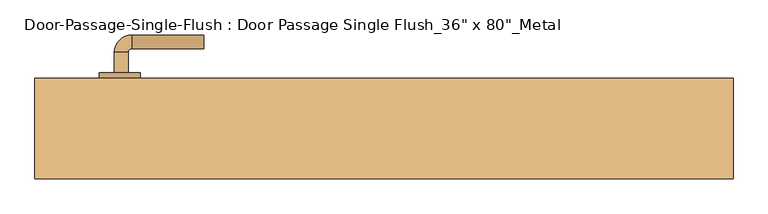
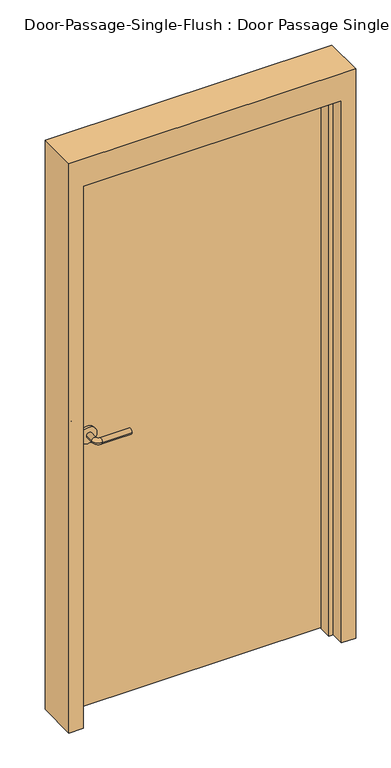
"""IFC4 building model written with IfcOpenShell, lengths in millimetres: door geometry."""

from ifc_helpers import new_model, si_unit, point, frame, frame_2d, origin, origin_with_axes, place, context, project, spatial, polyline, circle_curve, ellipse_curve, trimmed, segment, composite_curve, outline, extrude, faceted_brep, source, transform, mapped, element, save
from ifc_brep_helpers import plane_surface, cylinder_surface, revolved_surface, advanced_brep


def door_7c3f7257(model_context):
    return source(origin(), model_context, "Body", "SolidModel", [
        advanced_brep(
        [(-392.190625, 106.3, 1016.0), (-372.190625, 106.3, 1016.0), (-372.190625, 76.3, 1016.0), (-392.190625, 76.3, 1016.0), (-367.190625, 71.3, 1016.0), (-367.190625, 51.3, 1016.0), (-262.190625, 51.3, 1016.0), (-262.190625, 71.3, 1016.0)],
        [
            (0, 1, circle_curve(frame((-382.190625, 106.3, 1016.0), z_axis=(0.0, 1.0, 0.0), x_axis=(1.0, 0.0, 0.0)), 10.0)),
            (1, 0, circle_curve(frame((-382.190625, 106.3, 1016.0), z_axis=(0.0, 1.0, 0.0), x_axis=(1.0, 0.0, 0.0)), 10.0)),
            (1, 2),
            (2, 3, circle_curve(frame((-382.190625, 76.3, 1016.0), z_axis=(0.0, 1.0, 0.0), x_axis=(1.0, 0.0, 0.0)), 10.0)),
            (3, 0),
            (3, 2, circle_curve(frame((-382.190625, 76.3, 1016.0), z_axis=(0.0, 1.0, 0.0), x_axis=(1.0, 0.0, 0.0)), 10.0)),
            (4, 5, circle_curve(frame((-367.190625, 61.3, 1016.0), z_axis=(-1.0, 0.0, 0.0), x_axis=(0.0, 1.0, 0.0)), 10.0)),
            (5, 3, circle_curve(frame((-367.190625, 76.3, 1016.0), z_axis=(0.0, 0.0, -1.0), x_axis=(-1.0, 0.0, 0.0)), 25.0)),
            (2, 4, circle_curve(frame((-367.190625, 76.3, 1016.0), z_axis=(0.0, 0.0, 1.0), x_axis=(-1.0, 0.0, 0.0)), 5.0)),
            (5, 4, circle_curve(frame((-367.190625, 61.3, 1016.0), z_axis=(-1.0, 0.0, 0.0), x_axis=(0.0, 1.0, 0.0)), 10.0)),
            (6, 7, circle_curve(frame((-262.190625, 61.3, 1016.0), z_axis=(1.0, 0.0, 0.0), x_axis=(0.0, 1.0, 0.0)), 10.0)),
            (7, 6, circle_curve(frame((-262.190625, 61.3, 1016.0), z_axis=(1.0, 0.0, 0.0), x_axis=(0.0, 1.0, 0.0)), 10.0)),
            (4, 7),
            (6, 5),
        ],
        [
            plane_surface(frame((-382.190625, 106.3, 1016.0), z_axis=(0.0, 1.0, 0.0), x_axis=(0.0, 0.0, 1.0))),
            cylinder_surface(frame((-382.190625, 106.3, 1016.0), z_axis=(0.0, 1.0, 0.0), x_axis=(1.0, 0.0, 0.0)), 10.0),
            revolved_surface(trimmed(ellipse_curve(frame((-382.190625, 76.3, 1016.0), z_axis=(0.0, -1.0, 0.0), x_axis=(1.0, 0.0, 0.0)), 10.0, 10.0), [point((-392.190625, 76.3, 1016.0))], [point((-372.190625, 76.3, 1016.0))], True, "CARTESIAN"), (-367.190625, 76.3, 1016.0), (0.0, 0.0, -1.0)),
            revolved_surface(trimmed(ellipse_curve(frame((-382.190625, 76.3, 1016.0), z_axis=(0.0, -1.0, 0.0), x_axis=(1.0, 0.0, 0.0)), 10.0, 10.0), [point((-372.190625, 76.3, 1016.0))], [point((-392.190625, 76.3, 1016.0))], True, "CARTESIAN"), (-367.190625, 76.3, 1016.0), (0.0, 0.0, -1.0)),
            plane_surface(frame((-262.190625, 61.3, 1016.0), z_axis=(1.0, 0.0, 0.0), x_axis=(0.0, 0.0, 1.0))),
            cylinder_surface(frame((-367.190625, 61.3, 1016.0), z_axis=(-1.0, 0.0, 0.0), x_axis=(0.0, 1.0, 0.0)), 10.0),
        ],
        [
            (0, [[1, 2]]),
            (1, [[3, 4, 5, -2]]),
            (1, [[-5, 6, -3, -1]]),
            (2, [[7, 8, -4, 9]]),
            (3, [[10, -9, -6, -8]]),
            (4, [[11, 12]]),
            (5, [[13, -11, 14, -7]]),
            (5, [[-14, -12, -13, -10]]),
        ],
    ),
        extrude(outline(composite_curve([segment(trimmed(circle_curve(frame_2d((1016.0, -384.690625)), 30.0), [point((1016.0, -414.690625))], [point((1016.0, -354.690625))], False, "CARTESIAN"), True, "CONTINUOUS"), segment(trimmed(circle_curve(frame_2d((1016.0, -384.690625)), 30.0), [point((1016.0, -354.690625))], [point((1016.0, -414.690625))], False, "CARTESIAN"), True, "CONTINUOUS")], self_intersect=False)), frame((0.0, 106.3, 0.0), z_axis=(0.0, 1.0, 0.0), x_axis=(0.0, 0.0, 1.0)), (0.0, 0.0, 1.0), 8.0),
        advanced_brep(
        [(-392.190625, 166.75, 1016.0), (-372.190625, 166.75, 1016.0), (-392.190625, 196.75, 1016.0), (-372.190625, 196.75, 1016.0), (-367.190625, 201.75, 1016.0), (-367.190625, 221.75, 1016.0), (-262.190625, 221.75, 1016.0), (-262.190625, 201.75, 1016.0)],
        [
            (0, 1, circle_curve(frame((-382.190625, 166.75, 1016.0), z_axis=(0.0, -1.0, 0.0), x_axis=(1.0, 0.0, 0.0)), 10.0)),
            (1, 0, circle_curve(frame((-382.190625, 166.75, 1016.0), z_axis=(0.0, -1.0, 0.0), x_axis=(1.0, 0.0, 0.0)), 10.0)),
            (0, 2),
            (2, 3, circle_curve(frame((-382.190625, 196.75, 1016.0), z_axis=(0.0, -1.0, 0.0), x_axis=(1.0, 0.0, 0.0)), 10.0)),
            (3, 1),
            (3, 2, circle_curve(frame((-382.190625, 196.75, 1016.0), z_axis=(0.0, -1.0, 0.0), x_axis=(1.0, 0.0, 0.0)), 10.0)),
            (4, 3, circle_curve(frame((-367.190625, 196.75, 1016.0), z_axis=(0.0, 0.0, 1.0), x_axis=(-1.0, 0.0, 0.0)), 5.0)),
            (2, 5, circle_curve(frame((-367.190625, 196.75, 1016.0), z_axis=(0.0, 0.0, -1.0), x_axis=(-1.0, 0.0, 0.0)), 25.0)),
            (5, 4, circle_curve(frame((-367.190625, 211.75, 1016.0), z_axis=(-1.0, 0.0, 0.0), x_axis=(0.0, -1.0, 0.0)), 10.0)),
            (4, 5, circle_curve(frame((-367.190625, 211.75, 1016.0), z_axis=(-1.0, 0.0, 0.0), x_axis=(0.0, -1.0, 0.0)), 10.0)),
            (6, 7, circle_curve(frame((-262.190625, 211.75, 1016.0), z_axis=(1.0, 0.0, 0.0), x_axis=(0.0, -1.0, 0.0)), 10.0)),
            (7, 6, circle_curve(frame((-262.190625, 211.75, 1016.0), z_axis=(1.0, 0.0, 0.0), x_axis=(0.0, -1.0, 0.0)), 10.0)),
            (5, 6),
            (7, 4),
        ],
        [
            plane_surface(frame((-382.190625, 166.75, 1016.0), z_axis=(0.0, -1.0, 0.0), x_axis=(0.0, 0.0, 1.0))),
            cylinder_surface(frame((-382.190625, 166.75, 1016.0), z_axis=(0.0, -1.0, 0.0), x_axis=(1.0, 0.0, 0.0)), 10.0),
            revolved_surface(trimmed(ellipse_curve(frame((-382.190625, 196.75, 1016.0), z_axis=(0.0, -1.0, 0.0), x_axis=(1.0, 0.0, 0.0)), 10.0, 10.0), [point((-392.190625, 196.75, 1016.0))], [point((-372.190625, 196.75, 1016.0))], True, "CARTESIAN"), (-367.190625, 196.75, 1016.0), (0.0, 0.0, -1.0)),
            revolved_surface(trimmed(ellipse_curve(frame((-382.190625, 196.75, 1016.0), z_axis=(0.0, -1.0, 0.0), x_axis=(1.0, 0.0, 0.0)), 10.0, 10.0), [point((-372.190625, 196.75, 1016.0))], [point((-392.190625, 196.75, 1016.0))], True, "CARTESIAN"), (-367.190625, 196.75, 1016.0), (0.0, 0.0, -1.0)),
            plane_surface(frame((-262.190625, 211.75, 1016.0), z_axis=(1.0, 0.0, 0.0), x_axis=(0.0, 0.0, 1.0))),
            cylinder_surface(frame((-367.190625, 211.75, 1016.0), z_axis=(-1.0, 0.0, 0.0), x_axis=(0.0, -1.0, 0.0)), 10.0),
        ],
        [
            (0, [[1, 2]]),
            (1, [[-1, 3, 4, 5]]),
            (1, [[-2, -5, 6, -3]]),
            (2, [[7, -4, 8, 9]]),
            (3, [[-8, -6, -7, 10]]),
            (4, [[11, 12]]),
            (5, [[-9, 13, -12, 14]]),
            (5, [[-10, -14, -11, -13]]),
        ],
    ),
        extrude(outline(composite_curve([segment(trimmed(circle_curve(frame_2d((1016.0, -384.690625)), 30.0), [point((1016.0, -414.690625))], [point((1016.0, -354.690625))], False, "CARTESIAN"), True, "CONTINUOUS"), segment(trimmed(circle_curve(frame_2d((1016.0, -384.690625)), 30.0), [point((1016.0, -354.690625))], [point((1016.0, -414.690625))], False, "CARTESIAN"), True, "CONTINUOUS")], self_intersect=False)), frame((0.0, 158.75, 0.0), z_axis=(0.0, 1.0, 0.0), x_axis=(0.0, 0.0, 1.0)), (0.0, 0.0, 1.0), 8.0),
        faceted_brep([(457.2, 109.5375, 0.0), (457.2, 158.75, 0.0), (508.0, 158.75, 0.0), (508.0, 12.7, 0.0), (457.2, 12.7, 0.0), (457.2, 61.9125, 0.0), (441.325, 61.9125, 0.0), (441.325, 109.5375, 0.0), (457.2, 109.5375, 2032.0), (457.2, 158.75, 2032.0), (-457.2, 158.75, 2032.0), (-457.2, 158.75, 0.0), (-508.0, 158.75, 0.0), (-508.0, 158.75, 2133.6), (508.0, 158.75, 2133.6), (508.0, 12.7, 2133.6), (-508.0, 12.7, 2133.6), (-508.0, 12.7, 0.0), (-457.2, 12.7, 0.0), (-457.2, 12.7, 2032.0), (457.2, 12.7, 2032.0), (457.2, 61.9125, 2032.0), (-457.2, 61.9125, 2032.0), (-457.2, 61.9125, 0.0), (-441.325, 61.9125, 0.0), (-441.325, 61.9125, 2016.125), (441.325, 61.9125, 2016.125), (441.325, 109.5375, 2016.125), (-441.325, 109.5375, 2016.125), (-441.325, 109.5375, 0.0), (-457.2, 109.5375, 0.0), (-457.2, 109.5375, 2032.0)], [[[0, 1, 2, 3, 4, 5, 6, 7]], [[1, 0, 8, 9]], [[2, 1, 9, 10, 11, 12, 13, 14]], [[3, 2, 14, 15]], [[4, 3, 15, 16, 17, 18, 19, 20]], [[5, 4, 20, 21]], [[6, 5, 21, 22, 23, 24, 25, 26]], [[7, 6, 26, 27]], [[0, 7, 27, 28, 29, 30, 31, 8]], [[9, 8, 31, 10]], [[20, 19, 22, 21]], [[26, 25, 28, 27]], [[12, 11, 30, 29, 24, 23, 18, 17]], [[11, 10, 31, 30]], [[13, 12, 17, 16]], [[19, 18, 23, 22]], [[25, 24, 29, 28]], [[15, 14, 13, 16]]]),
        extrude(outline(polyline([(457.2, 114.3), (-457.2, 114.3), (-457.2, 158.75), (457.2, 158.75), (457.2, 114.3)])), origin_with_axes(), (0.0, 0.0, 1.0), 2032.0),
    ])


if __name__ == "__main__":
    model = new_model("IFC4")
    model_context = context("Model", 3, world=origin())
    ifc_project = project(units=[si_unit("LENGTHUNIT", "METRE", prefix="MILLI")], contexts=[model_context])
    site = spatial("IfcSite", under=ifc_project)
    building = spatial("IfcBuilding", under=site)
    placement = place(None, origin())
    door_shape = door_7c3f7257(model_context)
    element("IfcDoor", 1, ObjectType="Door-Passage-Single-Flush : Door Passage Single Flush_36\" x 80\"_Metal", at=placement, inside=building, context=model_context, shape_type="MappedRepresentation", body=[
        mapped(door_shape, transform((0.0, 0.0, 0.0), x_axis=(1.0, 0.0, 0.0), y_axis=(0.0, 1.0, 0.0), z_axis=(0.0, 0.0, 1.0))),
    ])
    save(model, "model.ifc")
